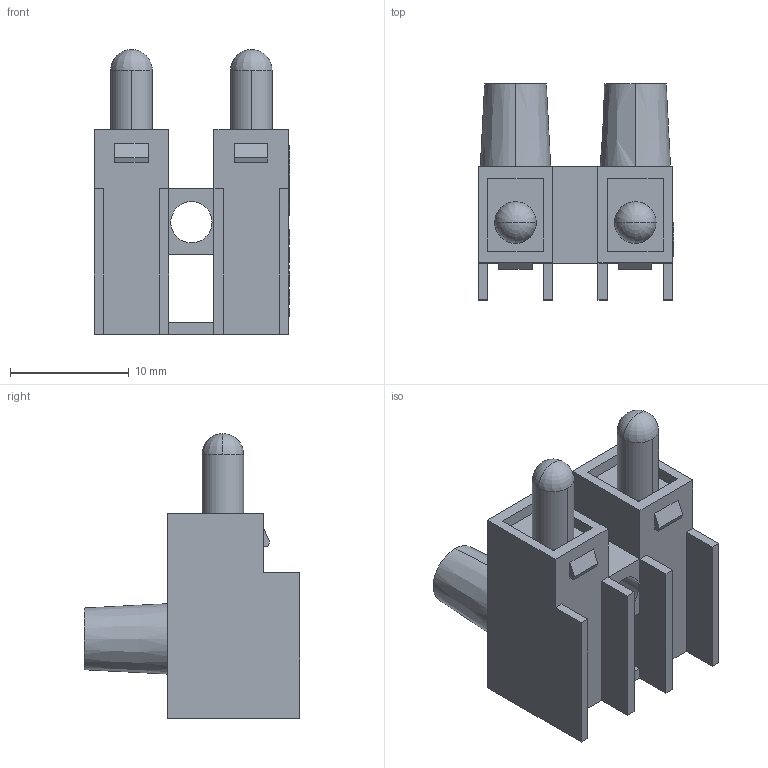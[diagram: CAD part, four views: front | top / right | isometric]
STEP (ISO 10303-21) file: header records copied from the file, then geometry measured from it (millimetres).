
FILE_DESCRIPTION((' '),'1');
FILE_NAME('007YR01Y07.stp','2010-03-04 T15:06:29',(' '),(' '),'STEP Interface v1.0 by CT CoreTechnologie','3D_Evolution v1.0 by CT CoreTechnologie',' ');
FILE_SCHEMA(('CONFIG_CONTROL_DESIGN'));
Length unit declared in the file: millimetre
Products named in the file (1): 007YR01Y07
Bounding box: 16.5 x 18.2 x 24 mm (x, y, z)
Volume: 2297.9 mm3; surface area: 2284.5 mm2
Topology: 1 solids, 1 shells, 203 faces, 511 edges, 338 vertices
Faces by surface type: plane 150, bspline 33, cylinder 20
Entity records: 10999 total; most frequent: CARTESIAN_POINT 4390, ORIENTED_EDGE 1014, DIRECTION 877, EDGE_CURVE 507, VECTOR 395, LINE 395, VERTEX_POINT 338, AXIS2_PLACEMENT_3D 241
